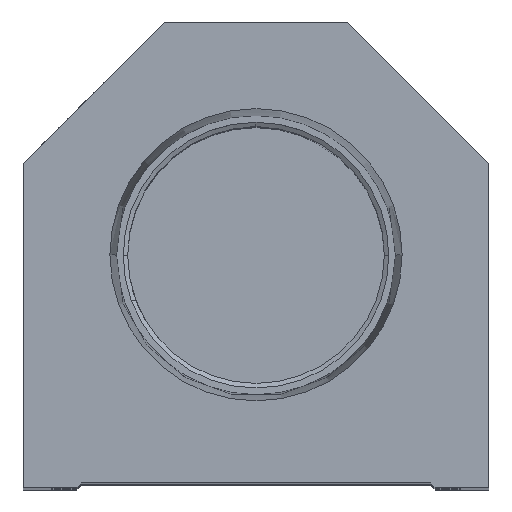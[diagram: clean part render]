
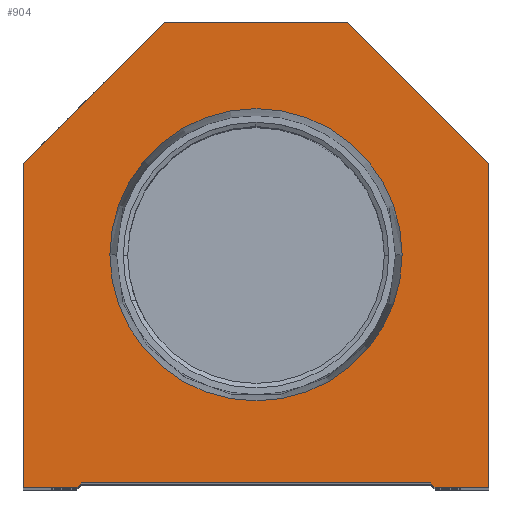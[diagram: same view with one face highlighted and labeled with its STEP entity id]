
A CAD part, top view. The second image highlights one B-rep face of the part: STEP entity #904.
In plain terms, the highlighted planar face has unit normal (0, 0, 1).
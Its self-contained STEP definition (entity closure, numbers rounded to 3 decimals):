
#93 = DIRECTION ( 'NONE',  ( 0., 0., 1. ) ) ;
#161 = DIRECTION ( 'NONE',  ( -0.707, 0.707, 0. ) ) ;
#326 = DIRECTION ( 'NONE',  ( 0.707, 0.707, 0. ) ) ;
#904 = ADVANCED_FACE ( 'NONE', ( #10597, #11021 ), #14510, .T. ) ;
#911 = CIRCLE ( 'NONE', #1915, 15.947 ) ;
#967 = ORIENTED_EDGE ( 'NONE', *, *, #2798, .T. ) ;
#997 = DIRECTION ( 'NONE',  ( 0., 0., 1. ) ) ;
#1212 = ORIENTED_EDGE ( 'NONE', *, *, #7902, .F. ) ;
#1312 = DIRECTION ( 'NONE',  ( 1., 0., 0. ) ) ;
#1523 = CARTESIAN_POINT ( 'NONE',  ( -19.55, 0., 0. ) ) ;
#1844 = ORIENTED_EDGE ( 'NONE', *, *, #13129, .T. ) ;
#1903 = VERTEX_POINT ( 'NONE', #11813 ) ;
#1915 = AXIS2_PLACEMENT_3D ( 'NONE', #4347, #997, #16774 ) ;
#2297 = DIRECTION ( 'NONE',  ( 1., 0., 0. ) ) ;
#2336 = EDGE_LOOP ( 'NONE', ( #1212, #14022 ) ) ;
#2463 = VECTOR ( 'NONE', #14569, 1000. ) ;
#2667 = LINE ( 'NONE', #9191, #20760 ) ;
#2798 = EDGE_CURVE ( 'NONE', #11645, #10024, #18270, .T. ) ;
#2894 = CARTESIAN_POINT ( 'NONE',  ( -19.05, 0.5, 0. ) ) ;
#2908 = AXIS2_PLACEMENT_3D ( 'NONE', #17980, #3166, #8305 ) ;
#3166 = DIRECTION ( 'NONE',  ( 0., 0., 1. ) ) ;
#3293 = ORIENTED_EDGE ( 'NONE', *, *, #7668, .T. ) ;
#3404 = ORIENTED_EDGE ( 'NONE', *, *, #7354, .T. ) ;
#3477 = EDGE_CURVE ( 'NONE', #17565, #5908, #12176, .T. ) ;
#3610 = LINE ( 'NONE', #11922, #15341 ) ;
#4249 = CARTESIAN_POINT ( 'NONE',  ( 25.4, 0., 0. ) ) ;
#4347 = CARTESIAN_POINT ( 'NONE',  ( 0., 25.4, 0. ) ) ;
#4348 = DIRECTION ( 'NONE',  ( 0., -1., 0. ) ) ;
#5578 = CIRCLE ( 'NONE', #2908, 15.947 ) ;
#5908 = VERTEX_POINT ( 'NONE', #4249 ) ;
#6158 = EDGE_CURVE ( 'NONE', #14039, #11645, #2667, .T. ) ;
#6500 = CARTESIAN_POINT ( 'NONE',  ( 19.05, 0.5, 0. ) ) ;
#6983 = DIRECTION ( 'NONE',  ( 0.707, -0.707, 0. ) ) ;
#7288 = VERTEX_POINT ( 'NONE', #2894 ) ;
#7354 = EDGE_CURVE ( 'NONE', #14747, #17565, #8543, .T. ) ;
#7393 = ORIENTED_EDGE ( 'NONE', *, *, #6158, .T. ) ;
#7668 = EDGE_CURVE ( 'NONE', #1903, #20662, #14790, .T. ) ;
#7902 = EDGE_CURVE ( 'NONE', #10123, #10145, #5578, .T. ) ;
#7936 = CARTESIAN_POINT ( 'NONE',  ( 0., 0., 0. ) ) ;
#8218 = LINE ( 'NONE', #17598, #2463 ) ;
#8250 = CARTESIAN_POINT ( 'NONE',  ( -15.947, 25.4, 0. ) ) ;
#8305 = DIRECTION ( 'NONE',  ( 1., 0., 0. ) ) ;
#8442 = CARTESIAN_POINT ( 'NONE',  ( 15.947, 25.4, 0. ) ) ;
#8477 = LINE ( 'NONE', #14934, #17595 ) ;
#8543 = LINE ( 'NONE', #15212, #18330 ) ;
#8799 = CARTESIAN_POINT ( 'NONE',  ( -25.4, 0., 0. ) ) ;
#8853 = LINE ( 'NONE', #15398, #17183 ) ;
#9191 = CARTESIAN_POINT ( 'NONE',  ( -25.4, 0., 0. ) ) ;
#9295 = AXIS2_PLACEMENT_3D ( 'NONE', #7936, #93, #20690 ) ;
#9842 = ORIENTED_EDGE ( 'NONE', *, *, #3477, .T. ) ;
#10024 = VERTEX_POINT ( 'NONE', #1523 ) ;
#10054 = CARTESIAN_POINT ( 'NONE',  ( 25.4, 35.4, 0. ) ) ;
#10123 = VERTEX_POINT ( 'NONE', #8442 ) ;
#10145 = VERTEX_POINT ( 'NONE', #8250 ) ;
#10597 = FACE_BOUND ( 'NONE', #2336, .T. ) ;
#11021 = FACE_OUTER_BOUND ( 'NONE', #20651, .T. ) ;
#11355 = VECTOR ( 'NONE', #1312, 1000. ) ;
#11485 = CARTESIAN_POINT ( 'NONE',  ( -19.05, 0.5, 0. ) ) ;
#11596 = CARTESIAN_POINT ( 'NONE',  ( -10., 50.8, 0. ) ) ;
#11645 = VERTEX_POINT ( 'NONE', #8799 ) ;
#11763 = ORIENTED_EDGE ( 'NONE', *, *, #20198, .T. ) ;
#11813 = CARTESIAN_POINT ( 'NONE',  ( 25.4, 35.4, 0. ) ) ;
#11922 = CARTESIAN_POINT ( 'NONE',  ( 25.4, 0., 0. ) ) ;
#12176 = LINE ( 'NONE', #17110, #11355 ) ;
#12842 = CARTESIAN_POINT ( 'NONE',  ( -25.4, 35.4, 0. ) ) ;
#13129 = EDGE_CURVE ( 'NONE', #20662, #15439, #8853, .T. ) ;
#13172 = ORIENTED_EDGE ( 'NONE', *, *, #17112, .T. ) ;
#14022 = ORIENTED_EDGE ( 'NONE', *, *, #20709, .F. ) ;
#14039 = VERTEX_POINT ( 'NONE', #12842 ) ;
#14510 = PLANE ( 'NONE',  #9295 ) ;
#14569 = DIRECTION ( 'NONE',  ( -0.707, -0.707, 0. ) ) ;
#14747 = VERTEX_POINT ( 'NONE', #6500 ) ;
#14790 = LINE ( 'NONE', #10054, #19024 ) ;
#14934 = CARTESIAN_POINT ( 'NONE',  ( -9.775, 9.775, 0. ) ) ;
#14937 = LINE ( 'NONE', #11485, #14941 ) ;
#14941 = VECTOR ( 'NONE', #19460, 1000. ) ;
#15212 = CARTESIAN_POINT ( 'NONE',  ( 9.775, 9.775, 0. ) ) ;
#15341 = VECTOR ( 'NONE', #18207, 1000. ) ;
#15398 = CARTESIAN_POINT ( 'NONE',  ( 10., 50.8, 0. ) ) ;
#15439 = VERTEX_POINT ( 'NONE', #11596 ) ;
#16724 = CARTESIAN_POINT ( 'NONE',  ( -19.05, 0., 0. ) ) ;
#16774 = DIRECTION ( 'NONE',  ( 1., 0., 0. ) ) ;
#17087 = DIRECTION ( 'NONE',  ( -1., 0., 0. ) ) ;
#17110 = CARTESIAN_POINT ( 'NONE',  ( 19.05, 0., 0. ) ) ;
#17112 = EDGE_CURVE ( 'NONE', #10024, #7288, #8477, .T. ) ;
#17183 = VECTOR ( 'NONE', #17087, 1000. ) ;
#17524 = EDGE_CURVE ( 'NONE', #15439, #14039, #8218, .T. ) ;
#17565 = VERTEX_POINT ( 'NONE', #19181 ) ;
#17595 = VECTOR ( 'NONE', #326, 1000. ) ;
#17598 = CARTESIAN_POINT ( 'NONE',  ( -25.4, 35.4, 0. ) ) ;
#17879 = EDGE_CURVE ( 'NONE', #7288, #14747, #14937, .T. ) ;
#17980 = CARTESIAN_POINT ( 'NONE',  ( 0., 25.4, 0. ) ) ;
#18207 = DIRECTION ( 'NONE',  ( 0., 1., 0. ) ) ;
#18270 = LINE ( 'NONE', #16724, #19354 ) ;
#18330 = VECTOR ( 'NONE', #6983, 1000. ) ;
#18500 = CARTESIAN_POINT ( 'NONE',  ( 10., 50.8, 0. ) ) ;
#18508 = ORIENTED_EDGE ( 'NONE', *, *, #17524, .T. ) ;
#18917 = ORIENTED_EDGE ( 'NONE', *, *, #17879, .T. ) ;
#19024 = VECTOR ( 'NONE', #161, 1000. ) ;
#19181 = CARTESIAN_POINT ( 'NONE',  ( 19.55, 0., 0. ) ) ;
#19354 = VECTOR ( 'NONE', #2297, 1000. ) ;
#19460 = DIRECTION ( 'NONE',  ( 1., 0., 0. ) ) ;
#20198 = EDGE_CURVE ( 'NONE', #5908, #1903, #3610, .T. ) ;
#20651 = EDGE_LOOP ( 'NONE', ( #967, #13172, #18917, #3404, #9842, #11763, #3293, #1844, #18508, #7393 ) ) ;
#20662 = VERTEX_POINT ( 'NONE', #18500 ) ;
#20690 = DIRECTION ( 'NONE',  ( 1., 0., 0. ) ) ;
#20709 = EDGE_CURVE ( 'NONE', #10145, #10123, #911, .T. ) ;
#20760 = VECTOR ( 'NONE', #4348, 1000. ) ;
